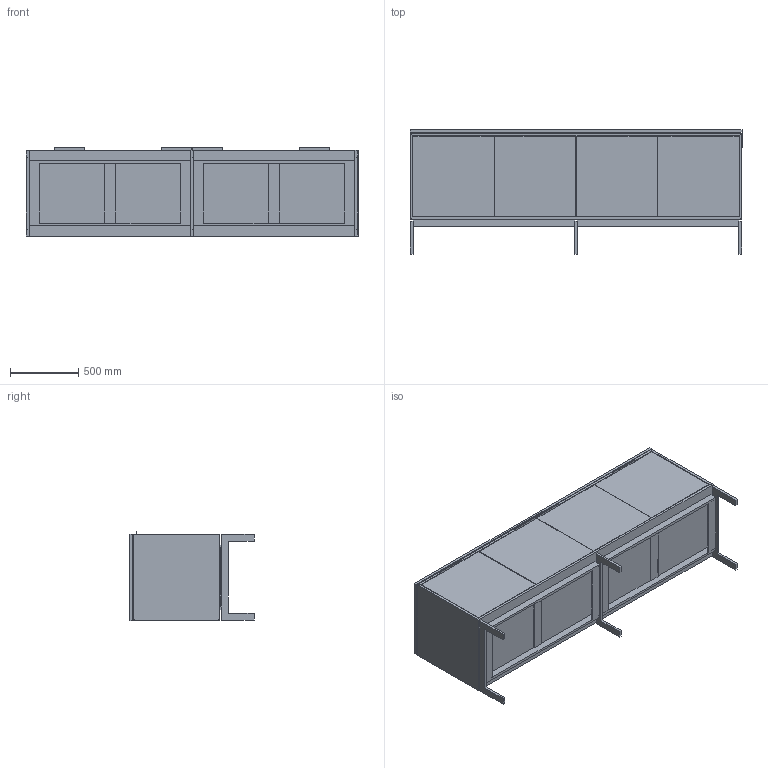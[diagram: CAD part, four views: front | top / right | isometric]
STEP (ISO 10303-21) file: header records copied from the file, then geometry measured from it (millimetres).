
FILE_DESCRIPTION(/* description */ ('','CAx-IF Rec.Pracs.---Representation and Presentation of Product Manufacturing Information (PMI)---4.0---2014-10-13'),/* implementation_level */ '2;1');
FILE_NAME(/* name */ 'CREDENZA STORAGE_ELEVATE 2.stp',/* time_stamp */ '2024-12-07T17:58:56-05:00',/* author */ ('mbowman'),/* organization */ (''),/* preprocessor_version */ 'ST-DEVELOPER v19.2',/* originating_system */ 'Autodesk Inventor 2023',/* authorisation */ '');
FILE_SCHEMA (('AP242_MANAGED_MODEL_BASED_3D_ENGINEERING_MIM_LF { 1 0 10303 442 1 1 4 }'));
Length unit declared in the file: inch
Products named in the file (5): ELEVATE^CREDENZA 35h_25x96 B 4 DOOR-SOLID ASSEMBLY; ELEVATE^CREDENZA 35h_25x96 4 DOOR-PARTS SOLID; HAFELE 106.04.06-3 FINISHES; ELEVATE^CREDENZA 35h_25x96 B 4 DOOR-FLOAT; ELEVATE^CREDENZA 35h_25x96 B 4 DOOR-STONE
Assembly tree (7 placements, depth 2):
  ELEVATE^CREDENZA 35h_25x96 B 4 DOOR-SOLID ASSEMBLY
    ELEVATE^CREDENZA 35h_25x96 4 DOOR-PARTS SOLID
    HAFELE 106.04.06-3 FINISHES  x4
    ELEVATE^CREDENZA 35h_25x96 B 4 DOOR-FLOAT
    ELEVATE^CREDENZA 35h_25x96 B 4 DOOR-STONE
Bounding box: 2438.4 x 914.4 x 654.05 mm (x, y, z)
Volume: 195365522.8 mm3; surface area: 24132246.7 mm2
Topology: 19 solids, 19 shells, 252 faces, 636 edges, 416 vertices
Faces by surface type: plane 220, cylinder 24, cone 8
Entity records: 6708 total; most frequent: CARTESIAN_POINT 1411, ORIENTED_EDGE 924, DIRECTION 906, EDGE_CURVE 462, LINE 446, VECTOR 446, VERTEX_POINT 302, STYLED_ITEM 273
